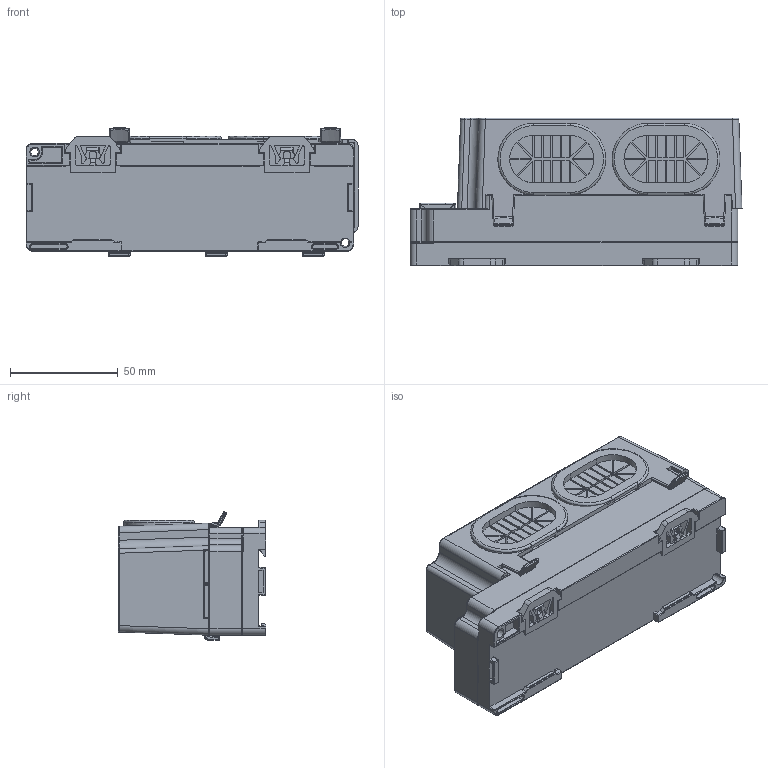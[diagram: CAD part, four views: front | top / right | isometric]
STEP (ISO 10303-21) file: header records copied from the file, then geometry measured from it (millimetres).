
FILE_DESCRIPTION((''),'2;1');
FILE_NAME('XBF5A_32IO_PUSHIN_TOP_ASM','2025-12-16T13:21:01',('Administrator'),(''),'CREO PARAMETRIC BY PTC INC, 2022073','CREO PARAMETRIC BY PTC INC, 2022073','');
FILE_SCHEMA(('CONFIG_CONTROL_DESIGN'));
Products named in the file (1): XBF5A_32IO_PUSHIN_TOP_ASM
Bounding box: 154 x 68.5 x 59.9 mm (x, y, z)
Volume: 122185.7 mm3; surface area: 141266.7 mm2
Topology: 9 solids, 14 shells, 5210 faces, 14613 edges, 9439 vertices
Faces by surface type: plane 3302, cylinder 1034, extrusion 383, bspline 176, cone 159, torus 81, sphere 75
Entity records: 180089 total; most frequent: CARTESIAN_POINT 48570, ORIENTED_EDGE 29186, DIRECTION 24278, EDGE_CURVE 14593, VECTOR 10868, LINE 10485, VERTEX_POINT 9439, AXIS2_PLACEMENT_3D 6705
